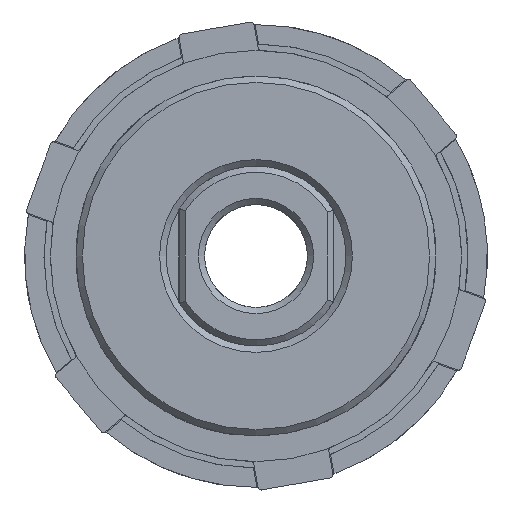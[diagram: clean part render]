
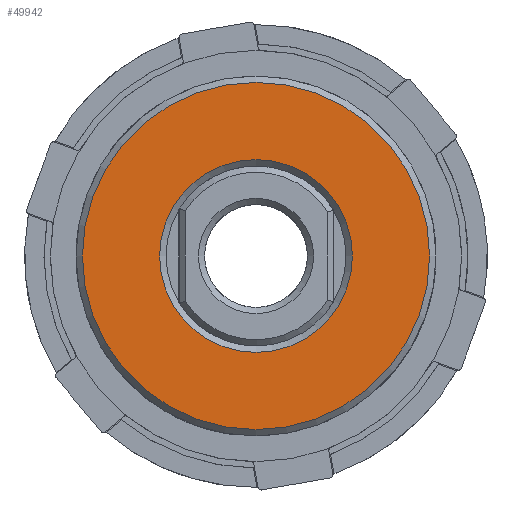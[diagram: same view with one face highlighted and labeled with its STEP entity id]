
A CAD part, front view. The second image highlights one B-rep face of the part: STEP entity #49942.
In plain terms, the highlighted planar face has unit normal (0, -1, 0).
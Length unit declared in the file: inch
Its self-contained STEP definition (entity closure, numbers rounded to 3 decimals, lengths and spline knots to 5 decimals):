
#49880=CARTESIAN_POINT('',(0.4687,-0.1875,0.));
#49881=VERTEX_POINT('',#49880);
#49882=CARTESIAN_POINT('',(0.,-0.1875,0.0));
#49883=DIRECTION('',(0.0,-1.0,0.0));
#49884=DIRECTION('',(-1.0,0.0,0.0));
#49885=AXIS2_PLACEMENT_3D('',#49882,#49883,#49884);
#49886=CIRCLE('',#49885,0.4687);
#49887=EDGE_CURVE('',#49881,#49881,#49886,.T.);
#49923=CARTESIAN_POINT('',(0.65625,-0.1875,0.0));
#49924=DIRECTION('',(0.0,-1.0,0.0));
#49925=DIRECTION('',(0.0,0.0,-1.0));
#49926=AXIS2_PLACEMENT_3D('',#49923,#49924,#49925);
#49927=PLANE('',#49926);
#49928=CARTESIAN_POINT('',(0.844,-0.1875,0.));
#49929=VERTEX_POINT('',#49928);
#49930=CARTESIAN_POINT('',(0.,-0.1875,0.0));
#49931=DIRECTION('',(0.0,1.0,0.0));
#49932=DIRECTION('',(-1.0,0.0,0.0));
#49933=AXIS2_PLACEMENT_3D('',#49930,#49931,#49932);
#49934=CIRCLE('',#49933,0.844);
#49935=EDGE_CURVE('',#49929,#49929,#49934,.T.);
#49936=ORIENTED_EDGE('',*,*,#49935,.F.);
#49937=EDGE_LOOP('',(#49936));
#49938=FACE_OUTER_BOUND('',#49937,.T.);
#49939=ORIENTED_EDGE('',*,*,#49887,.F.);
#49940=EDGE_LOOP('',(#49939));
#49941=FACE_BOUND('',#49940,.T.);
#49942=ADVANCED_FACE('',(#49938,#49941),#49927,.T.);
